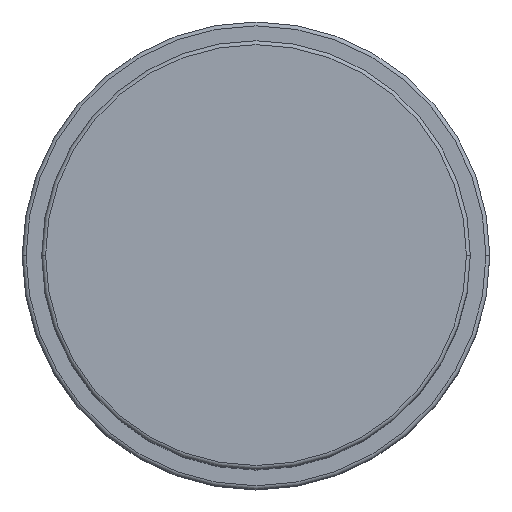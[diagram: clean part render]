
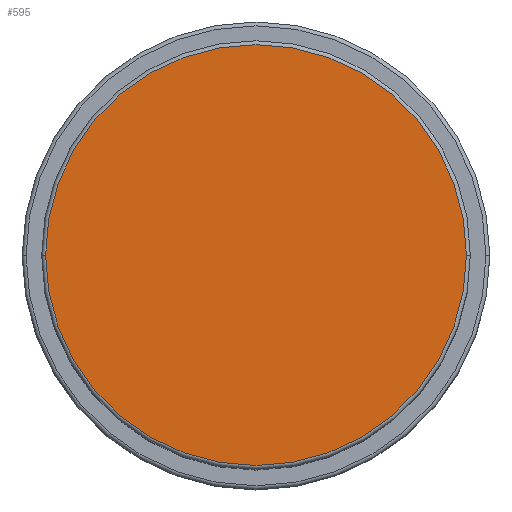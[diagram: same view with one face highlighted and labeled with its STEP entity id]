
A CAD part, top view. The second image highlights one B-rep face of the part: STEP entity #595.
In plain terms, the highlighted planar face has unit normal (0, 0, 1).
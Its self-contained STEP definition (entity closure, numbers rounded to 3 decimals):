
#43 = ORIENTED_EDGE ( 'NONE', *, *, #619, .T. ) ;
#98 = CIRCLE ( 'NONE', #320, 27. ) ;
#246 = PLANE ( 'NONE',  #1596 ) ;
#320 = AXIS2_PLACEMENT_3D ( 'NONE', #1445, #911, #1582 ) ;
#354 = DIRECTION ( 'NONE',  ( 0., 0., 1. ) ) ;
#457 = EDGE_CURVE ( 'NONE', #509, #1289, #462, .T. ) ;
#462 = CIRCLE ( 'NONE', #979, 27. ) ;
#490 = FACE_OUTER_BOUND ( 'NONE', #1724, .T. ) ;
#509 = VERTEX_POINT ( 'NONE', #1711 ) ;
#595 = ADVANCED_FACE ( 'NONE', ( #490 ), #246, .T. ) ;
#619 = EDGE_CURVE ( 'NONE', #1289, #509, #98, .T. ) ;
#652 = CARTESIAN_POINT ( 'NONE',  ( 27., 0., 81. ) ) ;
#911 = DIRECTION ( 'NONE',  ( 0., 0., 1. ) ) ;
#979 = AXIS2_PLACEMENT_3D ( 'NONE', #1576, #1011, #1684 ) ;
#1011 = DIRECTION ( 'NONE',  ( 0., 0., 1. ) ) ;
#1113 = ORIENTED_EDGE ( 'NONE', *, *, #457, .T. ) ;
#1289 = VERTEX_POINT ( 'NONE', #652 ) ;
#1291 = DIRECTION ( 'NONE',  ( 1., 0., 0. ) ) ;
#1445 = CARTESIAN_POINT ( 'NONE',  ( 0., 0., 81. ) ) ;
#1576 = CARTESIAN_POINT ( 'NONE',  ( 0., 0., 81. ) ) ;
#1582 = DIRECTION ( 'NONE',  ( 1., 0., 0. ) ) ;
#1592 = CARTESIAN_POINT ( 'NONE',  ( 0., 0., 81. ) ) ;
#1596 = AXIS2_PLACEMENT_3D ( 'NONE', #1592, #354, #1291 ) ;
#1684 = DIRECTION ( 'NONE',  ( 1., 0., 0. ) ) ;
#1711 = CARTESIAN_POINT ( 'NONE',  ( -27., 0., 81. ) ) ;
#1724 = EDGE_LOOP ( 'NONE', ( #43, #1113 ) ) ;
